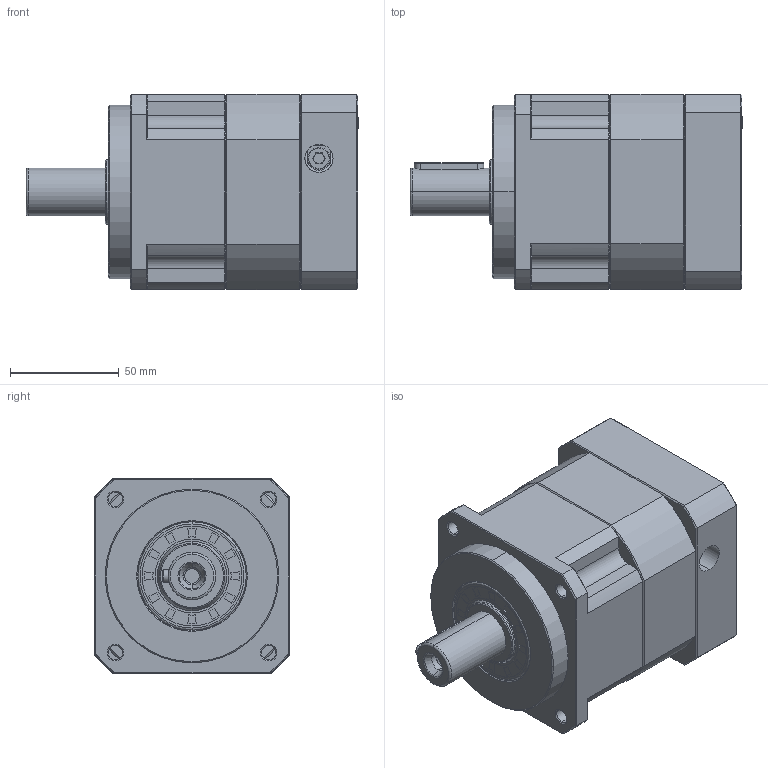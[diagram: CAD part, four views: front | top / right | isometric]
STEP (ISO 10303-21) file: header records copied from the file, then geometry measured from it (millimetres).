
FILE_DESCRIPTION (( 'STEP AP214' ), '1' );
FILE_NAME ('ZPB090-D22-L1-P1-19-70-90-M6.step', '2024-06-07T18:19:04', ( 'Windows 蚚誧' ), ( 'Organization' ), 'SwSTEP 2.0', 'SolidWorks 2016', '' );
FILE_SCHEMA (( 'AUTOMOTIVE_DESIGN' ));
Length unit declared in the file: millimetre
Products named in the file (1): ZPB090-D22-L1-P1-19-70-90-M6
Bounding box: 153 x 90 x 90 mm (x, y, z)
Surface area: 77375.3 mm2 (no closed solid volume)
Topology: 0 solids, 35 shells, 1821 faces, 4876 edges, 3118 vertices
Faces by surface type: plane 936, bspline 389, cone 276, cylinder 218, torus 2
Full cylindrical faces by diameter (mm): 6.72 x1
Entity records: 95003 total; most frequent: CARTESIAN_POINT 47717, ORIENTED_EDGE 9703, DIRECTION 7477, EDGE_CURVE 4871, LINE 3203, VECTOR 3203, VERTEX_POINT 3116, AXIS2_PLACEMENT_3D 2137
